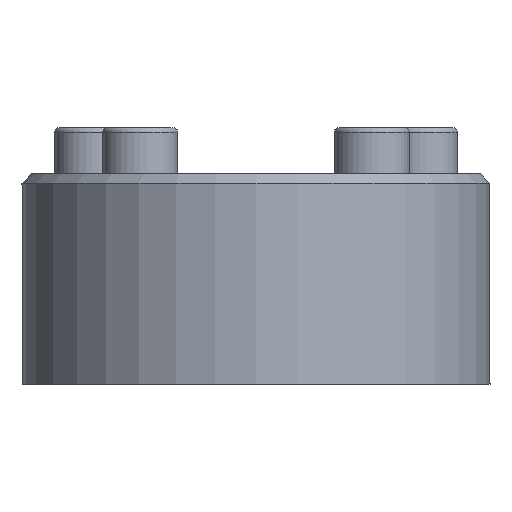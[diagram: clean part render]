
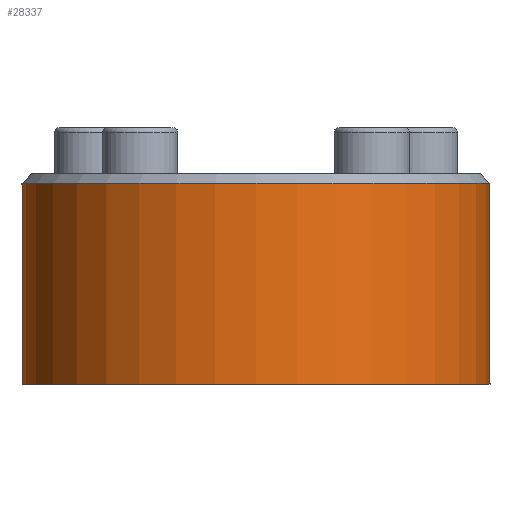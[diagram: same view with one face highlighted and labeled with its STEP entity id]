
A CAD part, front view. The second image highlights one B-rep face of the part: STEP entity #28337.
In plain terms, the highlighted cylindrical face has radius 50 mm (diameter 100 mm), a partial arc.
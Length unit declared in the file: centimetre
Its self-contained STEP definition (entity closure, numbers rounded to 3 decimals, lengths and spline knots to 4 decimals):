
#1667=CYLINDRICAL_SURFACE('',#29405,5.);
#4409=FACE_OUTER_BOUND('',#5999,.T.);
#5999=EDGE_LOOP('',(#25412,#25413,#25414,#25415));
#6195=LINE('',#34591,#9013);
#6918=LINE('',#37976,#9736);
#9013=VECTOR('',#29601,4.3);
#9736=VECTOR('',#30492,4.3);
#11875=CIRCLE('',#28580,5.);
#11879=CIRCLE('',#29406,5.);
#11905=VERTEX_POINT('',#34589);
#11906=VERTEX_POINT('',#34590);
#13021=VERTEX_POINT('',#37954);
#13026=VERTEX_POINT('',#37974);
#14499=EDGE_CURVE('',#11905,#11906,#6195,.T.);
#15625=EDGE_CURVE('',#13021,#11905,#11875,.T.);
#15635=EDGE_CURVE('',#13021,#13026,#6918,.T.);
#18031=EDGE_CURVE('',#11906,#13026,#11879,.T.);
#25412=ORIENTED_EDGE('',*,*,#15635,.T.);
#25413=ORIENTED_EDGE('',*,*,#18031,.F.);
#25414=ORIENTED_EDGE('',*,*,#14499,.F.);
#25415=ORIENTED_EDGE('',*,*,#15625,.F.);
#28337=ADVANCED_FACE('',(#4409),#1667,.T.);
#28580=AXIS2_PLACEMENT_3D('',#37956,#30469,#30470);
#29405=AXIS2_PLACEMENT_3D('',#47455,#34009,#34010);
#29406=AXIS2_PLACEMENT_3D('',#47456,#34011,#34012);
#29601=DIRECTION('',(0.,0.,1.));
#30469=DIRECTION('center_axis',(0.,0.,
-1.));
#30470=DIRECTION('ref_axis',(1.,0.,0.));
#30492=DIRECTION('',(0.,0.,1.));
#34009=DIRECTION('center_axis',(0.,0.,
-1.));
#34010=DIRECTION('ref_axis',(-1.,0.,0.));
#34011=DIRECTION('center_axis',(0.,0.,
1.));
#34012=DIRECTION('ref_axis',(-1.,0.,0.));
#34589=CARTESIAN_POINT('',(-5.,-22.5,-2.75));
#34590=CARTESIAN_POINT('',(-5.,-22.5,1.55));
#34591=CARTESIAN_POINT('',(-5.,-22.5,-2.75));
#37954=CARTESIAN_POINT('',(5.,-22.5,-2.75));
#37956=CARTESIAN_POINT('Origin',(0.,-22.5,
-2.75));
#37974=CARTESIAN_POINT('',(5.,-22.5,1.55));
#37976=CARTESIAN_POINT('',(5.,-22.5,-2.75));
#47455=CARTESIAN_POINT('Origin',(0.,-22.5,
1.75));
#47456=CARTESIAN_POINT('Origin',(0.,-22.5,
1.55));
